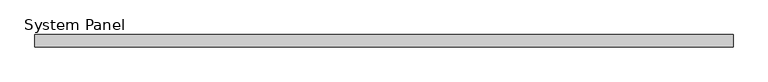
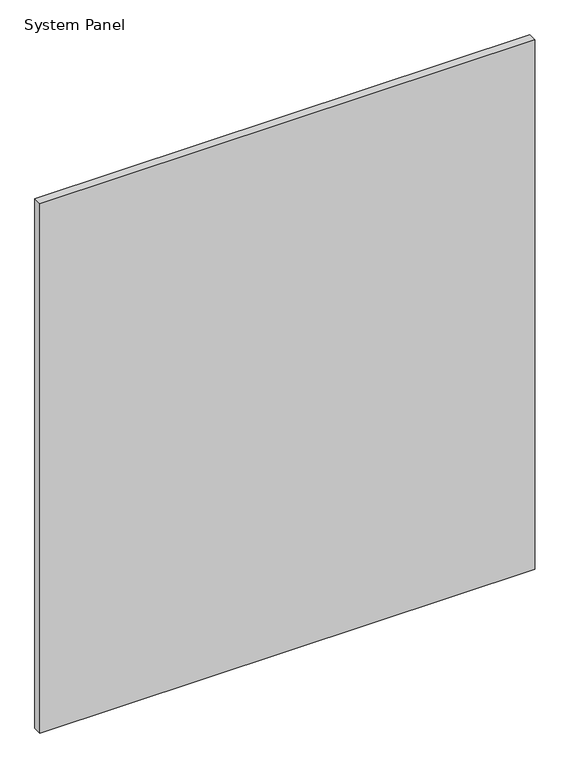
"""IFC4 building model written with IfcOpenShell, lengths in millimetres: plate geometry, System Panel : Panel_Glazed_Generic Showcase_30mm."""

from ifc_helpers import new_model, si_unit, origin, origin_with_axes, place, context, project, spatial, polyline, outline, extrude, source, transform, mapped, element, save


def system_panel_173fee60(model_context):
    return source(origin(), model_context, "Body", "SweptSolid", [
        extrude(outline(polyline([(862.5, 0.0), (-862.5, 0.0), (-862.5, 30.0), (862.5, 30.0), (862.5, 0.0)])), origin_with_axes(), (0.0, 0.0, 1.0), 1950.0),
    ])


if __name__ == "__main__":
    model = new_model("IFC4")
    model_context = context("Model", 3, world=origin())
    ifc_project = project(units=[si_unit("LENGTHUNIT", "METRE", prefix="MILLI")], contexts=[model_context])
    site = spatial("IfcSite", under=ifc_project)
    building = spatial("IfcBuilding", under=site)
    placement = place(None, origin())
    system_panel_shape = system_panel_173fee60(model_context)
    element("IfcPlate", 1, ObjectType="System Panel : Panel_Glazed_Generic Showcase_30mm", at=placement, inside=building, context=model_context, shape_type="MappedRepresentation", body=[
        mapped(system_panel_shape, transform((0.0, 0.0, 0.0), x_axis=(1.0, 0.0, 0.0), y_axis=(0.0, 1.0, 0.0), z_axis=(0.0, 0.0, 1.0))),
    ])
    save(model, "model.ifc")
